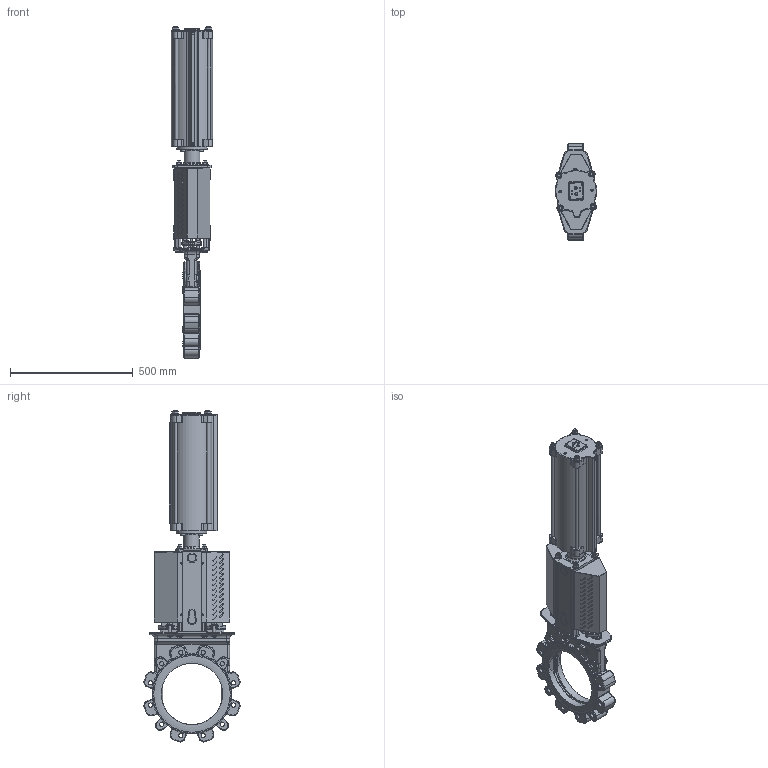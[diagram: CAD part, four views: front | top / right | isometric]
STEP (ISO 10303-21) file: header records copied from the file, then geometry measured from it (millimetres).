
FILE_DESCRIPTION(/* description */ (''),/* implementation_level */ '2;1');
FILE_NAME(/* name */ 'F:\Emir\3D-block special\WB\WB14-WFL-DN250-PN10-FRSC160-320.stp',/* time_stamp */ '2018-03-23T08:30:06+01:00',/* author */ ('emimus'),/* organization */ (''),/* preprocessor_version */ 'ST-DEVELOPER v17',/* originating_system */ 'Autodesk Inventor 2018',/* authorisation */ '');
FILE_SCHEMA (('CONFIG_CONTROL_DESIGN'));
Products named in the file (1): WB14-WFL-DN250-PN10-FRSC160-320_Shrinkwrap_1
Bounding box: 169.86 x 391.52 x 1352.76 mm (x, y, z)
Volume: 10409393.2 mm3; surface area: 2553087.8 mm2
Topology: 1 solids, 1 shells, 3070 faces, 7970 edges, 4863 vertices
Faces by surface type: plane 1012, cylinder 990, torus 405, bspline 373, cone 202, sphere 88
Full cylindrical faces by diameter (mm): 3 x6, 3.5 x1, 3.7 x1, 4 x6, 4.134 x4, 4.2 x11, 4.5 x2, 4.917 x4, 8 x10, 8.376 x2, 9.5 x4, 10 x11, 10.106 x4, 11.445 x2, 12 x24, 13 x17, 15 x3, 16 x6, 17.294 x16, 17.7 x1, 18 x4, 18.5 x1, 20 x1, 24 x14, 28 x2, 30 x1, 30.1 x2, 34 x1, 35 x1, 36 x1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
Entity records: 137418 total; most frequent: CARTESIAN_POINT 64644, ORIENTED_EDGE 15658, DIRECTION 14913, EDGE_CURVE 7829, AXIS2_PLACEMENT_3D 5970, VERTEX_POINT 4862, EDGE_LOOP 3416, FACE_OUTER_BOUND 3070
